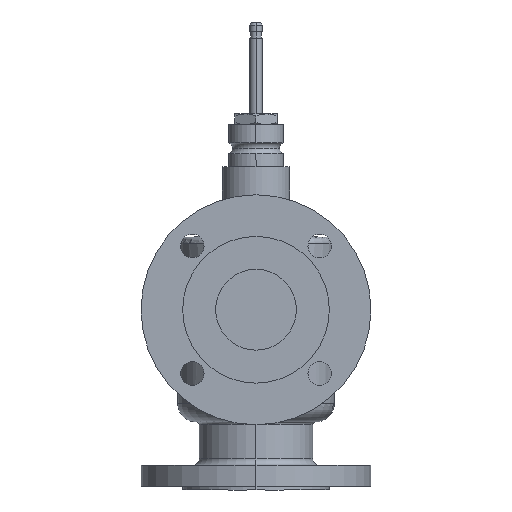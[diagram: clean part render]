
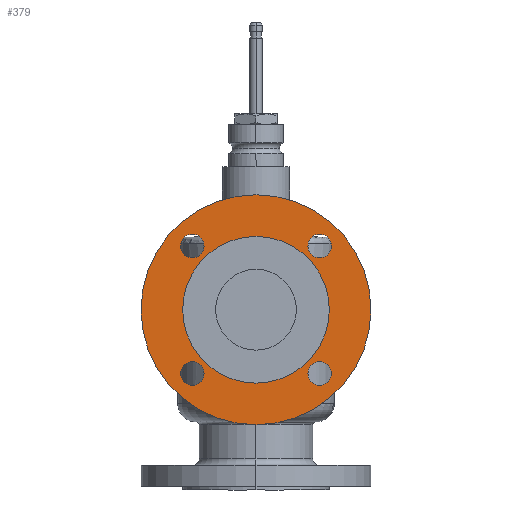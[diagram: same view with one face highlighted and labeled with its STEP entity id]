
A CAD part, front view. The second image highlights one B-rep face of the part: STEP entity #379.
In plain terms, the highlighted planar face has unit normal (0, -1, 0).
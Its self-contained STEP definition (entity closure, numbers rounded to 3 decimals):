
#113=FACE_BOUND('',#744,.T.);
#114=FACE_BOUND('',#745,.T.);
#115=FACE_BOUND('',#746,.T.);
#116=FACE_BOUND('',#747,.T.);
#117=FACE_BOUND('',#748,.T.);
#118=FACE_BOUND('',#749,.T.);
#379=ADVANCED_FACE('',(#113,#114,#115,#116,#117,#118),#466,.T.);
#466=PLANE('',#2844);
#744=EDGE_LOOP('',(#1493,#1494));
#745=EDGE_LOOP('',(#1495,#1496));
#746=EDGE_LOOP('',(#1497,#1498));
#747=EDGE_LOOP('',(#1499,#1500));
#748=EDGE_LOOP('',(#1501,#1502));
#749=EDGE_LOOP('',(#1503,#1504));
#920=CIRCLE('',#2801,92.5);
#921=CIRCLE('',#2803,59.);
#926=CIRCLE('',#2810,9.5);
#928=CIRCLE('',#2813,9.5);
#930=CIRCLE('',#2816,9.5);
#932=CIRCLE('',#2819,9.5);
#933=CIRCLE('',#2821,9.5);
#935=CIRCLE('',#2824,9.5);
#937=CIRCLE('',#2827,9.5);
#939=CIRCLE('',#2830,9.5);
#944=CIRCLE('',#2837,59.);
#946=CIRCLE('',#2842,92.5);
#1493=ORIENTED_EDGE('',*,*,#2225,.T.);
#1494=ORIENTED_EDGE('',*,*,#2263,.T.);
#1495=ORIENTED_EDGE('',*,*,#2249,.T.);
#1496=ORIENTED_EDGE('',*,*,#2250,.T.);
#1497=ORIENTED_EDGE('',*,*,#2245,.T.);
#1498=ORIENTED_EDGE('',*,*,#2252,.T.);
#1499=ORIENTED_EDGE('',*,*,#2241,.T.);
#1500=ORIENTED_EDGE('',*,*,#2254,.T.);
#1501=ORIENTED_EDGE('',*,*,#2237,.T.);
#1502=ORIENTED_EDGE('',*,*,#2256,.T.);
#1503=ORIENTED_EDGE('',*,*,#2227,.F.);
#1504=ORIENTED_EDGE('',*,*,#2261,.F.);
#1910=VERTEX_POINT('',#6536);
#1912=VERTEX_POINT('',#6540);
#1913=VERTEX_POINT('',#6544);
#1915=VERTEX_POINT('',#6547);
#1922=VERTEX_POINT('',#6563);
#1924=VERTEX_POINT('',#6567);
#1926=VERTEX_POINT('',#6572);
#1928=VERTEX_POINT('',#6576);
#1930=VERTEX_POINT('',#6581);
#1932=VERTEX_POINT('',#6585);
#1934=VERTEX_POINT('',#6590);
#1936=VERTEX_POINT('',#6594);
#2225=EDGE_CURVE('',#1910,#1912,#920,.T.);
#2227=EDGE_CURVE('',#1913,#1915,#921,.T.);
#2237=EDGE_CURVE('',#1922,#1924,#926,.T.);
#2241=EDGE_CURVE('',#1926,#1928,#928,.T.);
#2245=EDGE_CURVE('',#1930,#1932,#930,.T.);
#2249=EDGE_CURVE('',#1934,#1936,#932,.T.);
#2250=EDGE_CURVE('',#1936,#1934,#933,.T.);
#2252=EDGE_CURVE('',#1932,#1930,#935,.T.);
#2254=EDGE_CURVE('',#1928,#1926,#937,.T.);
#2256=EDGE_CURVE('',#1924,#1922,#939,.T.);
#2261=EDGE_CURVE('',#1915,#1913,#944,.T.);
#2263=EDGE_CURVE('',#1912,#1910,#946,.T.);
#2801=AXIS2_PLACEMENT_3D('',#6541,#3375,#3376);
#2803=AXIS2_PLACEMENT_3D('',#6546,#3380,#3381);
#2810=AXIS2_PLACEMENT_3D('',#6568,#3399,#3400);
#2813=AXIS2_PLACEMENT_3D('',#6577,#3407,#3408);
#2816=AXIS2_PLACEMENT_3D('',#6586,#3415,#3416);
#2819=AXIS2_PLACEMENT_3D('',#6595,#3423,#3424);
#2821=AXIS2_PLACEMENT_3D('',#6597,#3427,#3428);
#2824=AXIS2_PLACEMENT_3D('',#6600,#3433,#3434);
#2827=AXIS2_PLACEMENT_3D('',#6603,#3439,#3440);
#2830=AXIS2_PLACEMENT_3D('',#6606,#3445,#3446);
#2837=AXIS2_PLACEMENT_3D('',#6613,#3459,#3460);
#2842=AXIS2_PLACEMENT_3D('',#6618,#3469,#3470);
#2844=AXIS2_PLACEMENT_3D('',#6620,#3473,#3474);
#3375=DIRECTION('',(0.,-1.,0.));
#3376=DIRECTION('',(0.,0.,-1.));
#3380=DIRECTION('',(0.,-1.,0.));
#3381=DIRECTION('',(0.,0.,-1.));
#3399=DIRECTION('',(0.,1.,0.));
#3400=DIRECTION('',(0.,0.,-1.));
#3407=DIRECTION('',(0.,1.,0.));
#3408=DIRECTION('',(0.,0.,-1.));
#3415=DIRECTION('',(0.,1.,0.));
#3416=DIRECTION('',(0.,0.,-1.));
#3423=DIRECTION('',(0.,1.,0.));
#3424=DIRECTION('',(0.,0.,-1.));
#3427=DIRECTION('',(0.,1.,0.));
#3428=DIRECTION('',(0.,0.,-1.));
#3433=DIRECTION('',(0.,1.,0.));
#3434=DIRECTION('',(0.,0.,-1.));
#3439=DIRECTION('',(0.,1.,0.));
#3440=DIRECTION('',(0.,0.,-1.));
#3445=DIRECTION('',(0.,1.,0.));
#3446=DIRECTION('',(0.,0.,-1.));
#3459=DIRECTION('',(0.,-1.,0.));
#3460=DIRECTION('',(0.,0.,-1.));
#3469=DIRECTION('',(0.,-1.,0.));
#3470=DIRECTION('',(0.,0.,-1.));
#3473=DIRECTION('',(0.,-1.,0.));
#3474=DIRECTION('',(0.,0.,1.));
#6536=CARTESIAN_POINT('',(0.,148.,-92.5));
#6540=CARTESIAN_POINT('',(0.,148.,92.5));
#6541=CARTESIAN_POINT('',(0.,148.,0.));
#6544=CARTESIAN_POINT('',(0.,148.,-59.));
#6546=CARTESIAN_POINT('',(0.,148.,0.));
#6547=CARTESIAN_POINT('',(0.,148.,59.));
#6563=CARTESIAN_POINT('',(51.265,148.,41.765));
#6567=CARTESIAN_POINT('',(51.265,148.,60.765));
#6568=CARTESIAN_POINT('',(51.265,148.,51.265));
#6572=CARTESIAN_POINT('',(-51.265,148.,-60.765));
#6576=CARTESIAN_POINT('',(-51.265,148.,-41.765));
#6577=CARTESIAN_POINT('',(-51.265,148.,-51.265));
#6581=CARTESIAN_POINT('',(-51.265,148.,41.765));
#6585=CARTESIAN_POINT('',(-51.265,148.,60.765));
#6586=CARTESIAN_POINT('',(-51.265,148.,51.265));
#6590=CARTESIAN_POINT('',(51.265,148.,-60.765));
#6594=CARTESIAN_POINT('',(51.265,148.,-41.765));
#6595=CARTESIAN_POINT('',(51.265,148.,-51.265));
#6597=CARTESIAN_POINT('',(51.265,148.,-51.265));
#6600=CARTESIAN_POINT('',(-51.265,148.,51.265));
#6603=CARTESIAN_POINT('',(-51.265,148.,-51.265));
#6606=CARTESIAN_POINT('',(51.265,148.,51.265));
#6613=CARTESIAN_POINT('',(0.,148.,0.));
#6618=CARTESIAN_POINT('',(0.,148.,0.));
#6620=CARTESIAN_POINT('',(0.,148.,0.));
